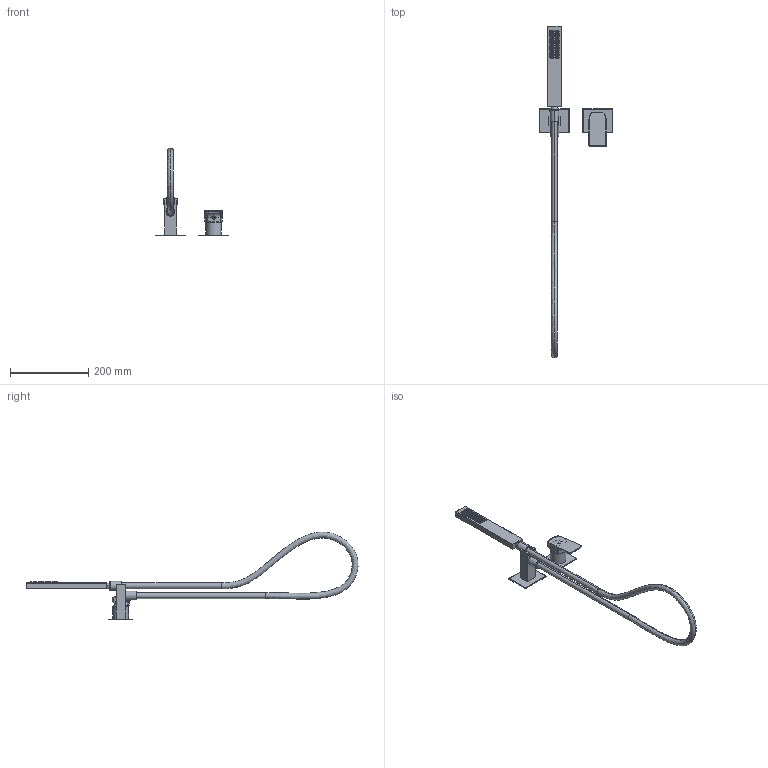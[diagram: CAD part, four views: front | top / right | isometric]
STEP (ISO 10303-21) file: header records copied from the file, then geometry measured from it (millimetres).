
FILE_DESCRIPTION((''),'2;1');
FILE_NAME('75567_SW0001','2024-10-15T09:16:19',('carloff'),(''),'CREO PARAMETRIC BY PTC INC, 2022014','CREO PARAMETRIC BY PTC INC, 2022014','');
FILE_SCHEMA(('CONFIG_CONTROL_DESIGN'));
Length unit declared in the file: millimetre
Products named in the file (1): 75567_SW0001
Bounding box: 185 x 846.81 x 223.96 mm (x, y, z)
Volume: 499042.5 mm3; surface area: 132949 mm2
Topology: 3 solids, 3 shells, 637 faces, 1386 edges, 809 vertices
Faces by surface type: torus 207, cone 125, plane 120, cylinder 102, bspline 61, sphere 22
Entity records: 26415 total; most frequent: CARTESIAN_POINT 12537, DIRECTION 3117, ORIENTED_EDGE 2768, EDGE_CURVE 1384, AXIS2_PLACEMENT_3D 1379, VERTEX_POINT 809, CIRCLE 803, EDGE_LOOP 699
